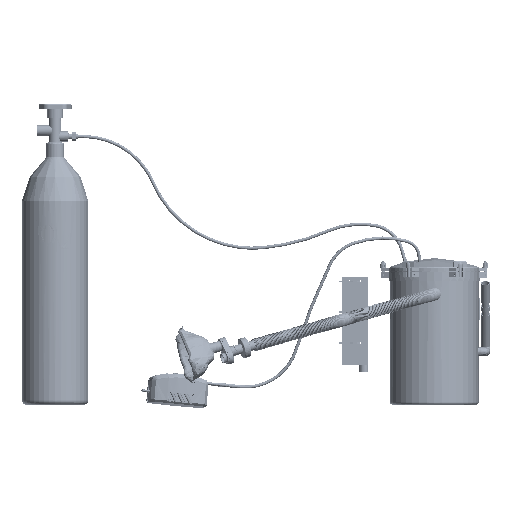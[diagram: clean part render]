
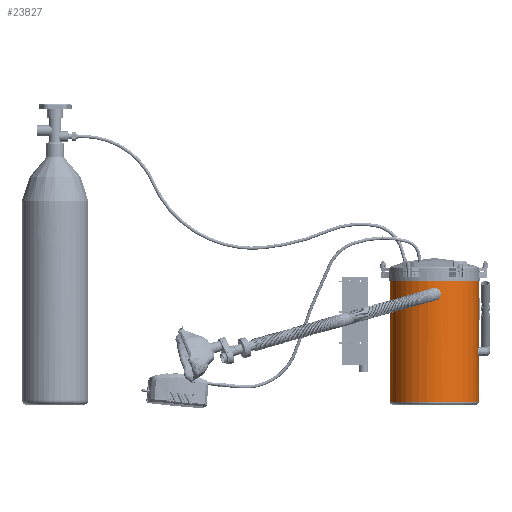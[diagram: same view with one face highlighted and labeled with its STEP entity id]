
A CAD part, top view. The second image highlights one B-rep face of the part: STEP entity #23827.
In plain terms, the highlighted cylindrical face has radius 100 mm (diameter 200 mm), a full revolution.
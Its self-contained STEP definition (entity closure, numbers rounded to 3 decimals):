
#6411=FACE_BOUND('',#8933,.T.);
#6412=FACE_BOUND('',#8934,.T.);
#6413=FACE_BOUND('',#8935,.T.);
#6414=FACE_BOUND('',#8936,.T.);
#6775=CIRCLE('',#25403,100.);
#6776=CIRCLE('',#25404,100.);
#7589=FACE_OUTER_BOUND('',#8932,.T.);
#8932=EDGE_LOOP('',(#17309));
#8933=EDGE_LOOP('',(#17310));
#8934=EDGE_LOOP('',(#17311));
#8935=EDGE_LOOP('',(#17312));
#8936=EDGE_LOOP('',(#17313,#17314));
#10631=B_SPLINE_CURVE_WITH_KNOTS('',3,(#33784,#33785,#33786,#33787,#33788,
#33789,#33790,#33791,#33792,#33793,#33794,#33795,#33796,#33797,#33798,#33799,
#33800,#33801,#33802),.UNSPECIFIED.,.F.,.F.,(4,2,2,2,3,2,2,2,4),(4.523,
4.9,5.277,5.654,6.031,6.408,
6.785,7.162,7.539),.UNSPECIFIED.);
#10632=B_SPLINE_CURVE_WITH_KNOTS('',3,(#33805,#33806,#33807,#33808,#33809,
#33810,#33811,#33812,#33813,#33814,#33815,#33816,#33817,#33818,#33819,#33820,
#33821,#33822),.UNSPECIFIED.,.F.,.F.,(4,2,2,2,2,2,2,2,4),(1.508,
1.885,2.262,2.639,3.016,3.393,
3.77,4.147,4.523),.UNSPECIFIED.);
#10633=B_SPLINE_CURVE_WITH_KNOTS('',3,(#33829,#33830,#33831,#33832,#33833,
#33834,#33835,#33836,#33837,#33838,#33839,#33840,#33841,#33842,#33843,#33844,
#33845),.UNSPECIFIED.,.T.,.F.,(4,1,1,1,1,1,1,1,1,1,1,1,1,1,4),(-13.411,
-12.863,-12.316,-11.768,-11.221,
-10.674,-10.126,-9.396,-9.032,
-8.667,-7.937,-7.389,-6.842,
-6.295,-5.747),.UNSPECIFIED.);
#10634=B_SPLINE_CURVE_WITH_KNOTS('',3,(#33849,#33850,#33851,#33852,#33853,
#33854,#33855,#33856,#33857,#33858,#33859,#33860,#33861,#33862,#33863,#33864,
#33865,#33866,#33867,#33868,#33869,#33870,#33871,#33872,#33873,#33874,#33875,
#33876,#33877,#33878,#33879,#33880,#33881,#33882),.UNSPECIFIED.,.T.,.F.,
(4,2,2,2,2,2,2,2,2,2,2,2,2,2,2,2,4),(0.,0.377,0.754,
1.131,1.508,1.885,2.262,2.639,
3.016,3.393,3.77,4.147,4.523,
4.9,5.277,5.654,6.031),
 .UNSPECIFIED.);
#11371=VERTEX_POINT('',#33782);
#11372=VERTEX_POINT('',#33783);
#11373=VERTEX_POINT('',#33826);
#11374=VERTEX_POINT('',#33828);
#11375=VERTEX_POINT('',#33846);
#11376=VERTEX_POINT('',#33848);
#13890=EDGE_CURVE('',#11371,#11372,#10631,.T.);
#13892=EDGE_CURVE('',#11372,#11371,#10632,.T.);
#13894=EDGE_CURVE('',#11373,#11373,#6775,.T.);
#13895=EDGE_CURVE('',#11374,#11374,#10633,.T.);
#13896=EDGE_CURVE('',#11375,#11375,#6776,.T.);
#13897=EDGE_CURVE('',#11376,#11376,#10634,.T.);
#17309=ORIENTED_EDGE('',*,*,#13894,.T.);
#17310=ORIENTED_EDGE('',*,*,#13895,.F.);
#17311=ORIENTED_EDGE('',*,*,#13896,.T.);
#17312=ORIENTED_EDGE('',*,*,#13897,.T.);
#17313=ORIENTED_EDGE('',*,*,#13892,.T.);
#17314=ORIENTED_EDGE('',*,*,#13890,.T.);
#23531=CYLINDRICAL_SURFACE('',#25402,100.);
#23827=ADVANCED_FACE('',(#7589,#6411,#6412,#6413,#6414),#23531,.T.);
#25402=AXIS2_PLACEMENT_3D('',#33825,#27593,#27594);
#25403=AXIS2_PLACEMENT_3D('',#33827,#27595,#27596);
#25404=AXIS2_PLACEMENT_3D('',#33847,#27597,#27598);
#27593=DIRECTION('center_axis',(-1.,0.,0.));
#27594=DIRECTION('ref_axis',(0.,0.,1.));
#27595=DIRECTION('center_axis',(-1.,0.,0.));
#27596=DIRECTION('ref_axis',(0.,0.,1.));
#27597=DIRECTION('center_axis',(1.,0.,0.));
#27598=DIRECTION('ref_axis',(0.,0.,1.));
#33782=CARTESIAN_POINT('',(-110.,100.,-100.));
#33783=CARTESIAN_POINT('',(-130.,100.,-100.));
#33784=CARTESIAN_POINT('Ctrl Pts',(-110.,100.,-100.));
#33785=CARTESIAN_POINT('Ctrl Pts',(-110.,100.,-98.743));
#33786=CARTESIAN_POINT('Ctrl Pts',(-110.251,99.974,-97.404));
#33787=CARTESIAN_POINT('Ctrl Pts',(-111.272,99.88,-94.94));
#33788=CARTESIAN_POINT('Ctrl Pts',(-112.042,99.813,-93.816));
#33789=CARTESIAN_POINT('Ctrl Pts',(-113.816,99.687,-92.042));
#33790=CARTESIAN_POINT('Ctrl Pts',(-114.94,99.62,-91.272));
#33791=CARTESIAN_POINT('Ctrl Pts',(-117.404,99.525,-90.251));
#33792=CARTESIAN_POINT('Ctrl Pts',(-118.743,99.499,-90.));
#33793=CARTESIAN_POINT('Ctrl Pts',(-120.,99.499,-90.));
#33794=CARTESIAN_POINT('Ctrl Pts',(-121.257,99.499,-90.));
#33795=CARTESIAN_POINT('Ctrl Pts',(-122.596,99.525,-90.251));
#33796=CARTESIAN_POINT('Ctrl Pts',(-125.06,99.62,-91.272));
#33797=CARTESIAN_POINT('Ctrl Pts',(-126.184,99.687,-92.042));
#33798=CARTESIAN_POINT('Ctrl Pts',(-127.958,99.813,-93.816));
#33799=CARTESIAN_POINT('Ctrl Pts',(-128.728,99.88,-94.94));
#33800=CARTESIAN_POINT('Ctrl Pts',(-129.749,99.974,-97.404));
#33801=CARTESIAN_POINT('Ctrl Pts',(-130.,100.,-98.743));
#33802=CARTESIAN_POINT('Ctrl Pts',(-130.,100.,-100.));
#33805=CARTESIAN_POINT('Ctrl Pts',(-130.,100.,-100.));
#33806=CARTESIAN_POINT('Ctrl Pts',(-130.,100.,-101.257));
#33807=CARTESIAN_POINT('Ctrl Pts',(-129.749,99.974,-102.596));
#33808=CARTESIAN_POINT('Ctrl Pts',(-128.728,99.88,-105.06));
#33809=CARTESIAN_POINT('Ctrl Pts',(-127.958,99.813,-106.184));
#33810=CARTESIAN_POINT('Ctrl Pts',(-126.184,99.687,-107.958));
#33811=CARTESIAN_POINT('Ctrl Pts',(-125.06,99.62,-108.728));
#33812=CARTESIAN_POINT('Ctrl Pts',(-122.596,99.525,-109.749));
#33813=CARTESIAN_POINT('Ctrl Pts',(-121.257,99.499,-110.));
#33814=CARTESIAN_POINT('Ctrl Pts',(-118.743,99.499,-110.));
#33815=CARTESIAN_POINT('Ctrl Pts',(-117.404,99.525,-109.749));
#33816=CARTESIAN_POINT('Ctrl Pts',(-114.94,99.62,-108.728));
#33817=CARTESIAN_POINT('Ctrl Pts',(-113.816,99.687,-107.958));
#33818=CARTESIAN_POINT('Ctrl Pts',(-112.042,99.813,-106.184));
#33819=CARTESIAN_POINT('Ctrl Pts',(-111.272,99.88,-105.06));
#33820=CARTESIAN_POINT('Ctrl Pts',(-110.251,99.974,-102.596));
#33821=CARTESIAN_POINT('Ctrl Pts',(-110.,100.,-101.257));
#33822=CARTESIAN_POINT('Ctrl Pts',(-110.,100.,-100.));
#33825=CARTESIAN_POINT('Origin',(-152.5,0.,-100.));
#33826=CARTESIAN_POINT('',(-5.,0.,0.));
#33827=CARTESIAN_POINT('Origin',(-5.,0.,-100.));
#33828=CARTESIAN_POINT('',(-235.3,0.,0.));
#33829=CARTESIAN_POINT('Ctrl Pts',(-235.299,0.,
0.));
#33830=CARTESIAN_POINT('Ctrl Pts',(-235.299,2.158,0.));
#33831=CARTESIAN_POINT('Ctrl Pts',(-236.307,6.474,-0.149));
#33832=CARTESIAN_POINT('Ctrl Pts',(-240.519,11.65,-0.653));
#33833=CARTESIAN_POINT('Ctrl Pts',(-246.609,14.53,-1.06));
#33834=CARTESIAN_POINT('Ctrl Pts',(-253.392,14.531,-1.059));
#33835=CARTESIAN_POINT('Ctrl Pts',(-259.476,11.648,-0.655));
#33836=CARTESIAN_POINT('Ctrl Pts',(-264.169,5.901,-0.089));
#33837=CARTESIAN_POINT('Ctrl Pts',(-265.205,-0.793,
0.075));
#33838=CARTESIAN_POINT('Ctrl Pts',(-263.436,-6.351,
-0.177));
#33839=CARTESIAN_POINT('Ctrl Pts',(-260.111,-11.157,-0.581));
#33840=CARTESIAN_POINT('Ctrl Pts',(-254.147,-14.537,
-1.063));
#33841=CARTESIAN_POINT('Ctrl Pts',(-246.609,-14.528,
-1.059));
#33842=CARTESIAN_POINT('Ctrl Pts',(-240.521,-11.65,-0.653));
#33843=CARTESIAN_POINT('Ctrl Pts',(-236.307,-6.474,-0.149));
#33844=CARTESIAN_POINT('Ctrl Pts',(-235.299,-2.158,
0.001));
#33845=CARTESIAN_POINT('Ctrl Pts',(-235.299,0.,
0.));
#33846=CARTESIAN_POINT('',(-280.,0.,0.));
#33847=CARTESIAN_POINT('Origin',(-280.,0.,-100.));
#33848=CARTESIAN_POINT('',(-220.,-99.499,-110.));
#33849=CARTESIAN_POINT('Ctrl Pts',(-220.,-99.499,-110.));
#33850=CARTESIAN_POINT('Ctrl Pts',(-221.257,-99.499,-110.));
#33851=CARTESIAN_POINT('Ctrl Pts',(-222.596,-99.525,
-109.749));
#33852=CARTESIAN_POINT('Ctrl Pts',(-225.06,-99.62,
-108.728));
#33853=CARTESIAN_POINT('Ctrl Pts',(-226.184,-99.687,-107.958));
#33854=CARTESIAN_POINT('Ctrl Pts',(-227.958,-99.813,
-106.184));
#33855=CARTESIAN_POINT('Ctrl Pts',(-228.728,-99.88,-105.06));
#33856=CARTESIAN_POINT('Ctrl Pts',(-229.749,-99.974,
-102.596));
#33857=CARTESIAN_POINT('Ctrl Pts',(-230.,-100.,-101.257));
#33858=CARTESIAN_POINT('Ctrl Pts',(-230.,-100.,-98.743));
#33859=CARTESIAN_POINT('Ctrl Pts',(-229.749,-99.974,
-97.404));
#33860=CARTESIAN_POINT('Ctrl Pts',(-228.728,-99.88,-94.94));
#33861=CARTESIAN_POINT('Ctrl Pts',(-227.958,-99.813,
-93.816));
#33862=CARTESIAN_POINT('Ctrl Pts',(-226.184,-99.687,-92.042));
#33863=CARTESIAN_POINT('Ctrl Pts',(-225.06,-99.62,
-91.272));
#33864=CARTESIAN_POINT('Ctrl Pts',(-222.596,-99.525,
-90.251));
#33865=CARTESIAN_POINT('Ctrl Pts',(-221.257,-99.499,-90.));
#33866=CARTESIAN_POINT('Ctrl Pts',(-218.743,-99.499,-90.));
#33867=CARTESIAN_POINT('Ctrl Pts',(-217.404,-99.525,
-90.251));
#33868=CARTESIAN_POINT('Ctrl Pts',(-214.94,-99.62,
-91.272));
#33869=CARTESIAN_POINT('Ctrl Pts',(-213.816,-99.687,-92.042));
#33870=CARTESIAN_POINT('Ctrl Pts',(-212.042,-99.813,
-93.816));
#33871=CARTESIAN_POINT('Ctrl Pts',(-211.272,-99.88,-94.94));
#33872=CARTESIAN_POINT('Ctrl Pts',(-210.251,-99.974,
-97.404));
#33873=CARTESIAN_POINT('Ctrl Pts',(-210.,-100.,-98.743));
#33874=CARTESIAN_POINT('Ctrl Pts',(-210.,-100.,-101.257));
#33875=CARTESIAN_POINT('Ctrl Pts',(-210.251,-99.974,
-102.596));
#33876=CARTESIAN_POINT('Ctrl Pts',(-211.272,-99.88,-105.06));
#33877=CARTESIAN_POINT('Ctrl Pts',(-212.042,-99.813,
-106.184));
#33878=CARTESIAN_POINT('Ctrl Pts',(-213.816,-99.687,-107.958));
#33879=CARTESIAN_POINT('Ctrl Pts',(-214.94,-99.62,
-108.728));
#33880=CARTESIAN_POINT('Ctrl Pts',(-217.404,-99.525,
-109.749));
#33881=CARTESIAN_POINT('Ctrl Pts',(-218.743,-99.499,-110.));
#33882=CARTESIAN_POINT('Ctrl Pts',(-220.,-99.499,-110.));
